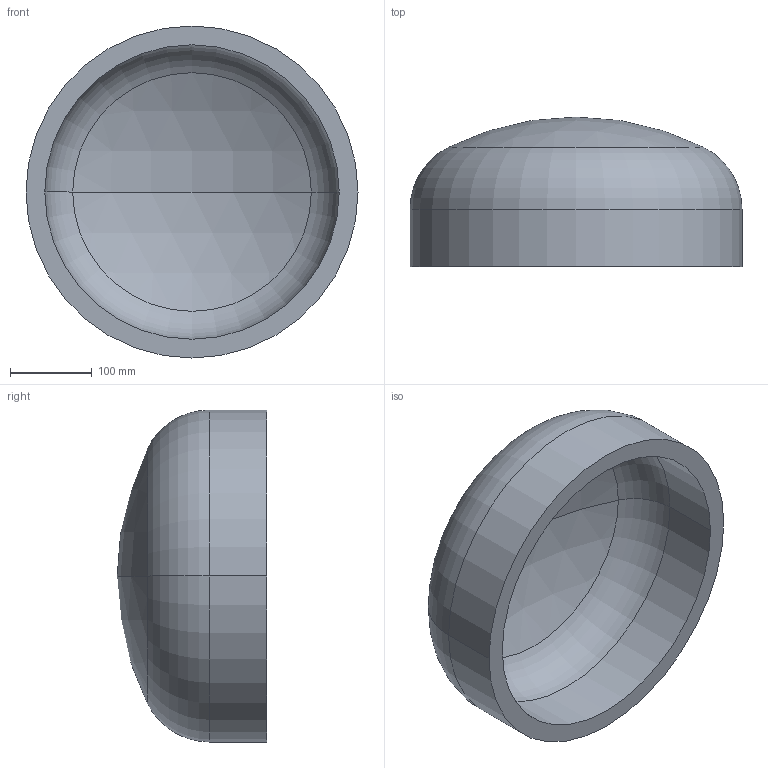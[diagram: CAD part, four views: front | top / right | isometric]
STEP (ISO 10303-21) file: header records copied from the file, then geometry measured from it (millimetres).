
FILE_DESCRIPTION (( 'STEP AP203' ), '1' );
FILE_NAME ('DIN 28013 Korbbogenform_-_Boden DIN 28013 - 406,4 x 70 - I - s=23.step', '2016-07-01T07:49:43', ( '' ), ( '' ), 'SwSTEP 2.0', 'SolidWorks 2013', '' );
FILE_SCHEMA (( 'CONFIG_CONTROL_DESIGN' ));
Length unit declared in the file: millimetre
Products named in the file (1): DIN 28013 Korbbogenform_-_Boden DIN 28013 - 406,4 x 70 - I - s=23
Bounding box: 406.4 x 183.06 x 406.4 mm (x, y, z)
Volume: 5775635.4 mm3; surface area: 531040.2 mm2
Topology: 1 solids, 1 shells, 13 faces, 24 edges, 14 vertices
Faces by surface type: torus 4, cylinder 4, sphere 4, plane 1
Entity records: 407 total; most frequent: DIRECTION 72, CARTESIAN_POINT 52, ORIENTED_EDGE 48, AXIS2_PLACEMENT_3D 34, EDGE_CURVE 24, CIRCLE 20, VERTEX_POINT 14, EDGE_LOOP 14
